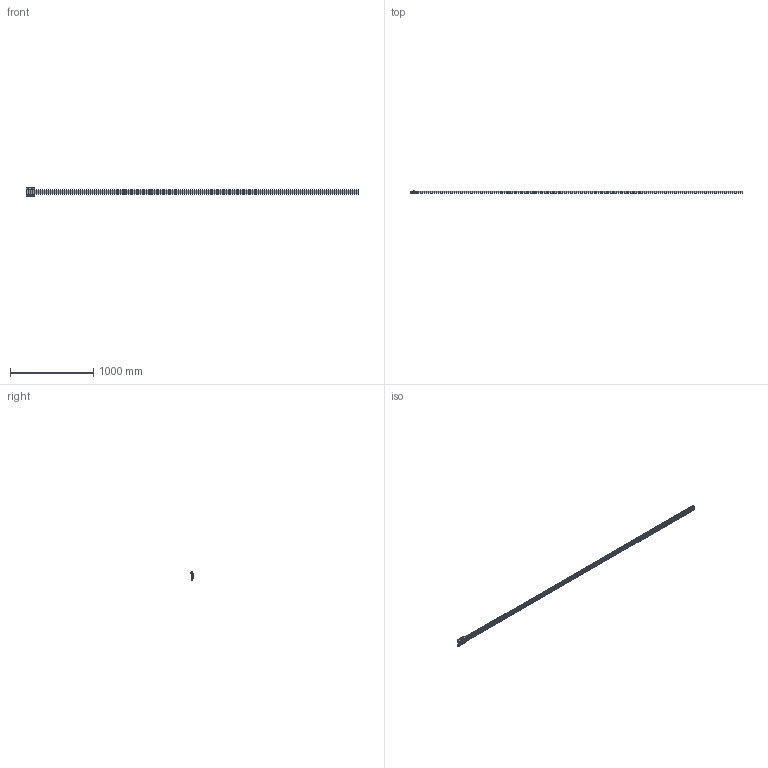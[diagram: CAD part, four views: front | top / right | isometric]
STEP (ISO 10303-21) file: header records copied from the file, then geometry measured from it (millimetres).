
FILE_DESCRIPTION( ( 'STEP AP203' ), '1' );
FILE_NAME( 'p:/temp/worker_7/temp/exporttempdir_536_526_Hneb7/format_0/FDI25 84367NV_4000-0-0.stp', '2021-02-04T02:09:56', ( 'License CC BY-ND 4.0' ), ( 'CADENAS' ), ' ', 'PARTsolutions', ' ' );
FILE_SCHEMA( ( 'CONFIG_CONTROL_DESIGN' ) );
Length unit declared in the file: millimetre
Products named in the file (5): FDI25 84367NV_4000-0-0; _FDI_25R 4000-0-0; _FDI_25R Slider_1; _FDI_25R 4000-0-0_2; _FDI_25R Slider_2
Assembly tree (4 placements, depth 2):
  FDI25 84367NV_4000-0-0
    _FDI_25R 4000-0-0
    _FDI_25R Slider_1
    _FDI_25R 4000-0-0_2
    _FDI_25R Slider_2
Bounding box: 4000 x 34.5 x 96.8 mm (x, y, z)
Volume: 4780808 mm3; surface area: 1026131.4 mm2
Topology: 4 solids, 4 shells, 635 faces, 1628 edges, 1125 vertices
Faces by surface type: cylinder 309, plane 302, cone 24
Full cylindrical faces by diameter (mm): 4.134 x8, 6.6 x134, 6.647 x4, 11 x134, 14 x1
Entity records: 17469 total; most frequent: DIRECTION 3063, CARTESIAN_POINT 2889, ORIENTED_EDGE 2324, EDGE_LOOP 1338, AXIS2_PLACEMENT_3D 1292, EDGE_CURVE 1162, VERTEX_POINT 970, FACE_OUTER_BOUND 916
